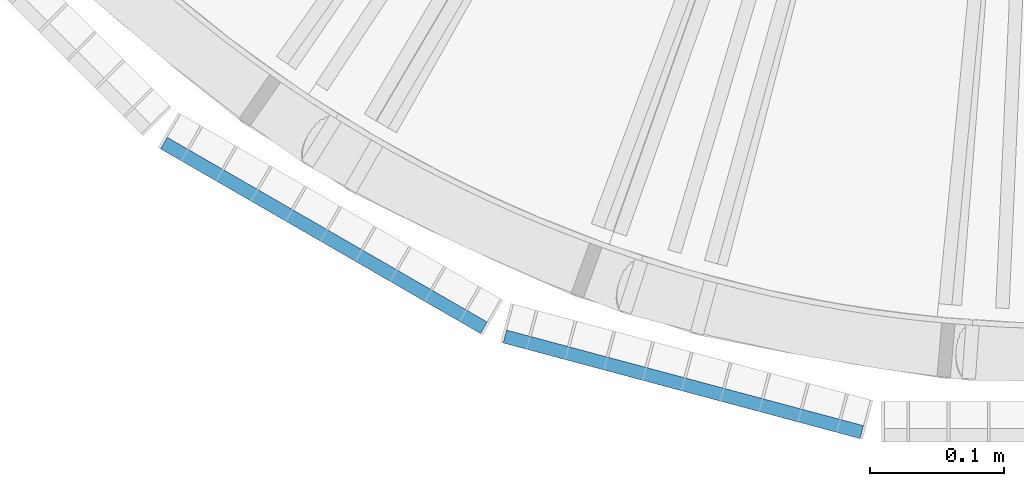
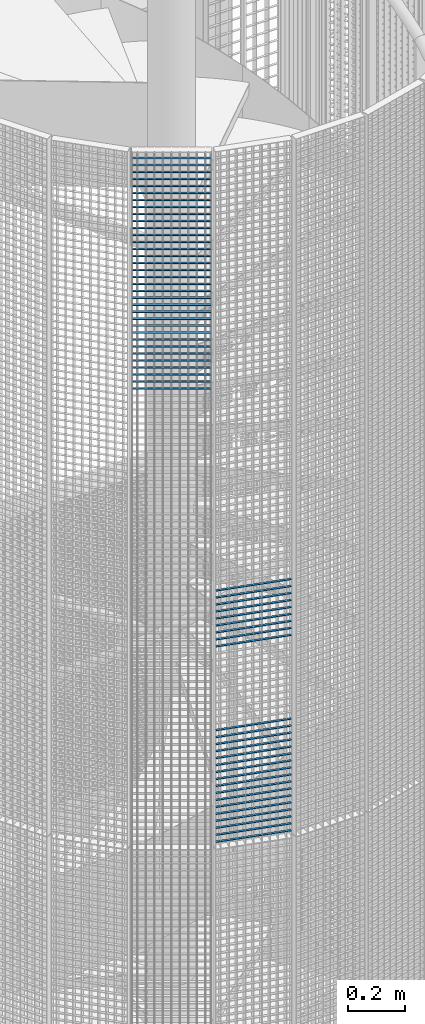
# One storey, part 138 of 1148: 60 beams, 2 elements without a shape of their own.
"""IFC2X3 building model written with IfcOpenShell, lengths in millimetres."""

from ifc_helpers import new_model, si_unit, frame, origin_with_axes, origin_2d_with_axis, place, context, subcontext, project, spatial, rectangle, extrude, material, type_object, element, aggregate, save


model = new_model("IFC2X3")

# Units and contexts
model_context = context("Model", 3, precision=1e-05, world=origin_with_axes())
body_context = subcontext(model_context, "Body", "Model", "MODEL_VIEW")
ifc_project = project(units=[si_unit("LENGTHUNIT", "METRE", prefix="MILLI"), si_unit("AREAUNIT", "SQUARE_METRE"), si_unit("VOLUMEUNIT", "CUBIC_METRE"), si_unit("MASSUNIT", "GRAM", prefix="KILO"), si_unit("TIMEUNIT", "SECOND"), si_unit("PLANEANGLEUNIT", "RADIAN"), si_unit("SOLIDANGLEUNIT", "STERADIAN"), si_unit("THERMODYNAMICTEMPERATUREUNIT", "DEGREE_CELSIUS"), si_unit("LUMINOUSINTENSITYUNIT", "LUMEN")], contexts=[model_context])

# Site, building, storey
site_placement = place(None, origin_with_axes())
site = spatial("IfcSite", under=ifc_project, at=site_placement, Name="Undefined", CompositionType="ELEMENT")
building_placement = place(site_placement, origin_with_axes())
building = spatial("IfcBuilding", under=site, at=building_placement, Name="Undefined", CompositionType="ELEMENT")
storey_placement = place(building_placement, origin_with_axes())
storey = spatial("IfcBuildingStorey", under=building, at=storey_placement, Name="Undefined", CompositionType="ELEMENT", Elevation=0.0)

# Assembly, beams
assembly_1_placement = place(storey_placement, origin_with_axes())
assembly_1 = element("IfcElementAssembly", 1, at=assembly_1_placement, inside=storey, Name="BORDURE", AssemblyPlace="NOTDEFINED", PredefinedType="NOTDEFINED")
ifc_material = material(Name="STEEL/S235JR")
beam_type = type_object("IfcBeamType", Name="PL2*10", PredefinedType="NOTDEFINED")
beam_1_placement = place(assembly_1_placement, frame((-421.483733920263, -1039.82309522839, 15510.0), z_axis=(-0.258819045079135, -0.965925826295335, 0.0), x_axis=(0.965925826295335, -0.258819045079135, 0.0)))
beam_1 = element("IfcBeam", 2, at=beam_1_placement, type_object=beam_type, material=ifc_material, Name="ENTRETOISE", context=body_context, shape_type="SweptSolid", body=[
    extrude(rectangle(XDim=2.0, YDim=10.0, at=origin_2d_with_axis()), frame((275.999999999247, 9.09494701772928e-13, 1.53210777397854e-14), z_axis=(-1.0, 0.0, 0.0), x_axis=(0.0, -1.0, 0.0)), (0.0, 0.0, 1.0), 276.0),
])
beam_2_placement = place(assembly_1_placement, frame((-421.483733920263, -1039.82309522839, 15480.0), z_axis=(-0.258819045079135, -0.965925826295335, 0.0), x_axis=(0.965925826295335, -0.258819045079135, 0.0)))
beam_2 = element("IfcBeam", 3, at=beam_2_placement, type_object=beam_type, material=ifc_material, Name="ENTRETOISE", context=body_context, shape_type="SweptSolid", body=[
    extrude(rectangle(XDim=2.0, YDim=10.0, at=origin_2d_with_axis()), frame((275.999999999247, 9.09494701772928e-13, 1.53210777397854e-14), z_axis=(-1.0, 0.0, 0.0), x_axis=(0.0, -1.0, 0.0)), (0.0, 0.0, 1.0), 276.0),
])
beam_3_placement = place(assembly_1_placement, frame((-421.483733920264, -1039.82309522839, 15870.0), z_axis=(-0.258819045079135, -0.965925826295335, 0.0), x_axis=(0.965925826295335, -0.258819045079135, 0.0)))
beam_3 = element("IfcBeam", 4, at=beam_3_placement, type_object=beam_type, material=ifc_material, Name="ENTRETOISE", context=body_context, shape_type="SweptSolid", body=[
    extrude(rectangle(XDim=2.0, YDim=10.0, at=origin_2d_with_axis()), frame((275.999999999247, 9.09494701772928e-13, 1.53210777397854e-14), z_axis=(-1.0, 0.0, 0.0), x_axis=(0.0, -1.0, 0.0)), (0.0, 0.0, 1.0), 276.0),
])
beam_4_placement = place(assembly_1_placement, frame((-421.483733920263, -1039.82309522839, 15450.0), z_axis=(-0.258819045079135, -0.965925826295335, 0.0), x_axis=(0.965925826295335, -0.258819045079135, 0.0)))
beam_4 = element("IfcBeam", 5, at=beam_4_placement, type_object=beam_type, material=ifc_material, Name="ENTRETOISE", context=body_context, shape_type="SweptSolid", body=[
    extrude(rectangle(XDim=2.0, YDim=10.0, at=origin_2d_with_axis()), frame((275.999999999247, 9.09494701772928e-13, 1.53210777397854e-14), z_axis=(-1.0, 0.0, 0.0), x_axis=(0.0, -1.0, 0.0)), (0.0, 0.0, 1.0), 276.0),
])
beam_5_placement = place(assembly_1_placement, frame((-421.483733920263, -1039.82309522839, 15420.0), z_axis=(-0.258819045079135, -0.965925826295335, 0.0), x_axis=(0.965925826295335, -0.258819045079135, 0.0)))
beam_5 = element("IfcBeam", 6, at=beam_5_placement, type_object=beam_type, material=ifc_material, Name="ENTRETOISE", context=body_context, shape_type="SweptSolid", body=[
    extrude(rectangle(XDim=2.0, YDim=10.0, at=origin_2d_with_axis()), frame((275.999999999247, 9.09494701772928e-13, 1.53210777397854e-14), z_axis=(-1.0, 0.0, 0.0), x_axis=(0.0, -1.0, 0.0)), (0.0, 0.0, 1.0), 276.0),
])
beam_6_placement = place(assembly_1_placement, frame((-421.483733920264, -1039.82309522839, 15900.0), z_axis=(-0.258819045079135, -0.965925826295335, 0.0), x_axis=(0.965925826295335, -0.258819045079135, 0.0)))
beam_6 = element("IfcBeam", 7, at=beam_6_placement, type_object=beam_type, material=ifc_material, Name="ENTRETOISE", context=body_context, shape_type="SweptSolid", body=[
    extrude(rectangle(XDim=2.0, YDim=10.0, at=origin_2d_with_axis()), frame((275.999999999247, 9.09494701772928e-13, 1.53210777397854e-14), z_axis=(-1.0, 0.0, 0.0), x_axis=(0.0, -1.0, 0.0)), (0.0, 0.0, 1.0), 276.0),
])
beam_7_placement = place(assembly_1_placement, frame((-421.483733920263, -1039.82309522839, 15390.0), z_axis=(-0.258819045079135, -0.965925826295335, 0.0), x_axis=(0.965925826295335, -0.258819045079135, 0.0)))
beam_7 = element("IfcBeam", 8, at=beam_7_placement, type_object=beam_type, material=ifc_material, Name="ENTRETOISE", context=body_context, shape_type="SweptSolid", body=[
    extrude(rectangle(XDim=2.0, YDim=10.0, at=origin_2d_with_axis()), frame((275.999999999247, 9.09494701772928e-13, 1.53210777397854e-14), z_axis=(-1.0, 0.0, 0.0), x_axis=(0.0, -1.0, 0.0)), (0.0, 0.0, 1.0), 276.0),
])
beam_8_placement = place(assembly_1_placement, frame((-421.483733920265, -1039.82309522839, 15930.0), z_axis=(-0.258819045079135, -0.965925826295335, 0.0), x_axis=(0.965925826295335, -0.258819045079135, 0.0)))
beam_8 = element("IfcBeam", 9, at=beam_8_placement, type_object=beam_type, material=ifc_material, Name="ENTRETOISE", context=body_context, shape_type="SweptSolid", body=[
    extrude(rectangle(XDim=2.0, YDim=10.0, at=origin_2d_with_axis()), frame((275.999999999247, 9.09494701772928e-13, 1.53210777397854e-14), z_axis=(-1.0, 0.0, 0.0), x_axis=(0.0, -1.0, 0.0)), (0.0, 0.0, 1.0), 276.0),
])
beam_9_placement = place(assembly_1_placement, frame((-421.483733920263, -1039.82309522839, 15360.0), z_axis=(-0.258819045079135, -0.965925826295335, 0.0), x_axis=(0.965925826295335, -0.258819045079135, 0.0)))
beam_9 = element("IfcBeam", 10, at=beam_9_placement, type_object=beam_type, material=ifc_material, Name="ENTRETOISE", context=body_context, shape_type="SweptSolid", body=[
    extrude(rectangle(XDim=2.0, YDim=10.0, at=origin_2d_with_axis()), frame((275.999999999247, 9.09494701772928e-13, 1.53210777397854e-14), z_axis=(-1.0, 0.0, 0.0), x_axis=(0.0, -1.0, 0.0)), (0.0, 0.0, 1.0), 276.0),
])
beam_10_placement = place(assembly_1_placement, frame((-421.483733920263, -1039.82309522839, 15330.0), z_axis=(-0.258819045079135, -0.965925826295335, 0.0), x_axis=(0.965925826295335, -0.258819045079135, 0.0)))
beam_10 = element("IfcBeam", 11, at=beam_10_placement, type_object=beam_type, material=ifc_material, Name="ENTRETOISE", context=body_context, shape_type="SweptSolid", body=[
    extrude(rectangle(XDim=2.0, YDim=10.0, at=origin_2d_with_axis()), frame((275.999999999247, 9.09494701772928e-13, 1.53210777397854e-14), z_axis=(-1.0, 0.0, 0.0), x_axis=(0.0, -1.0, 0.0)), (0.0, 0.0, 1.0), 276.0),
])
beam_11_placement = place(assembly_1_placement, frame((-421.483733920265, -1039.82309522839, 15960.0), z_axis=(-0.258819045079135, -0.965925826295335, 0.0), x_axis=(0.965925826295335, -0.258819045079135, 0.0)))
beam_11 = element("IfcBeam", 12, at=beam_11_placement, type_object=beam_type, material=ifc_material, Name="ENTRETOISE", context=body_context, shape_type="SweptSolid", body=[
    extrude(rectangle(XDim=2.0, YDim=10.0, at=origin_2d_with_axis()), frame((275.999999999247, 9.09494701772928e-13, 1.53210777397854e-14), z_axis=(-1.0, 0.0, 0.0), x_axis=(0.0, -1.0, 0.0)), (0.0, 0.0, 1.0), 276.0),
])
beam_12_placement = place(assembly_1_placement, frame((-421.483733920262, -1039.82309522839, 15300.0), z_axis=(-0.258819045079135, -0.965925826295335, 0.0), x_axis=(0.965925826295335, -0.258819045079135, 0.0)))
beam_12 = element("IfcBeam", 13, at=beam_12_placement, type_object=beam_type, material=ifc_material, Name="ENTRETOISE", context=body_context, shape_type="SweptSolid", body=[
    extrude(rectangle(XDim=2.0, YDim=10.0, at=origin_2d_with_axis()), frame((275.999999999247, 9.09494701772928e-13, 1.53210777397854e-14), z_axis=(-1.0, 0.0, 0.0), x_axis=(0.0, -1.0, 0.0)), (0.0, 0.0, 1.0), 276.0),
])
beam_13_placement = place(assembly_1_placement, frame((-421.483733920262, -1039.82309522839, 15270.0), z_axis=(-0.258819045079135, -0.965925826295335, 0.0), x_axis=(0.965925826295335, -0.258819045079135, 0.0)))
beam_13 = element("IfcBeam", 14, at=beam_13_placement, type_object=beam_type, material=ifc_material, Name="ENTRETOISE", context=body_context, shape_type="SweptSolid", body=[
    extrude(rectangle(XDim=2.0, YDim=10.0, at=origin_2d_with_axis()), frame((275.999999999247, 9.09494701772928e-13, 1.53210777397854e-14), z_axis=(-1.0, 0.0, 0.0), x_axis=(0.0, -1.0, 0.0)), (0.0, 0.0, 1.0), 276.0),
])
beam_14_placement = place(assembly_1_placement, frame((-421.483733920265, -1039.82309522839, 15990.0), z_axis=(-0.258819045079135, -0.965925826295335, 0.0), x_axis=(0.965925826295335, -0.258819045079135, 0.0)))
beam_14 = element("IfcBeam", 15, at=beam_14_placement, type_object=beam_type, material=ifc_material, Name="ENTRETOISE", context=body_context, shape_type="SweptSolid", body=[
    extrude(rectangle(XDim=2.0, YDim=10.0, at=origin_2d_with_axis()), frame((275.999999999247, 9.09494701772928e-13, 1.53210777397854e-14), z_axis=(-1.0, 0.0, 0.0), x_axis=(0.0, -1.0, 0.0)), (0.0, 0.0, 1.0), 276.0),
])
beam_15_placement = place(assembly_1_placement, frame((-421.483733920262, -1039.82309522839, 15240.0), z_axis=(-0.258819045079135, -0.965925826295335, 0.0), x_axis=(0.965925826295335, -0.258819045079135, 0.0)))
beam_15 = element("IfcBeam", 16, at=beam_15_placement, type_object=beam_type, material=ifc_material, Name="ENTRETOISE", context=body_context, shape_type="SweptSolid", body=[
    extrude(rectangle(XDim=2.0, YDim=10.0, at=origin_2d_with_axis()), frame((275.999999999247, 9.09494701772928e-13, 1.53210777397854e-14), z_axis=(-1.0, 0.0, 0.0), x_axis=(0.0, -1.0, 0.0)), (0.0, 0.0, 1.0), 276.0),
])
beam_16_placement = place(assembly_1_placement, frame((-421.483733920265, -1039.82309522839, 16020.0), z_axis=(-0.258819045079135, -0.965925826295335, 0.0), x_axis=(0.965925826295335, -0.258819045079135, 0.0)))
beam_16 = element("IfcBeam", 17, at=beam_16_placement, type_object=beam_type, material=ifc_material, Name="ENTRETOISE", context=body_context, shape_type="SweptSolid", body=[
    extrude(rectangle(XDim=2.0, YDim=10.0, at=origin_2d_with_axis()), frame((275.999999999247, 9.09494701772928e-13, 1.53210777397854e-14), z_axis=(-1.0, 0.0, 0.0), x_axis=(0.0, -1.0, 0.0)), (0.0, 0.0, 1.0), 276.0),
])
beam_17_placement = place(assembly_1_placement, frame((-421.483733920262, -1039.82309522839, 15210.0), z_axis=(-0.258819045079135, -0.965925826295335, 0.0), x_axis=(0.965925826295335, -0.258819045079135, 0.0)))
beam_17 = element("IfcBeam", 18, at=beam_17_placement, type_object=beam_type, material=ifc_material, Name="ENTRETOISE", context=body_context, shape_type="SweptSolid", body=[
    extrude(rectangle(XDim=2.0, YDim=10.0, at=origin_2d_with_axis()), frame((275.999999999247, 9.09494701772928e-13, 1.53210777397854e-14), z_axis=(-1.0, 0.0, 0.0), x_axis=(0.0, -1.0, 0.0)), (0.0, 0.0, 1.0), 276.0),
])
beam_18_placement = place(assembly_1_placement, frame((-421.483733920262, -1039.82309522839, 15180.0), z_axis=(-0.258819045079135, -0.965925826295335, 0.0), x_axis=(0.965925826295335, -0.258819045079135, 0.0)))
beam_18 = element("IfcBeam", 19, at=beam_18_placement, type_object=beam_type, material=ifc_material, Name="ENTRETOISE", context=body_context, shape_type="SweptSolid", body=[
    extrude(rectangle(XDim=2.0, YDim=10.0, at=origin_2d_with_axis()), frame((275.999999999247, 9.09494701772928e-13, 1.53210777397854e-14), z_axis=(-1.0, 0.0, 0.0), x_axis=(0.0, -1.0, 0.0)), (0.0, 0.0, 1.0), 276.0),
])
beam_19_placement = place(assembly_1_placement, frame((-421.483733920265, -1039.82309522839, 16050.0), z_axis=(-0.258819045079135, -0.965925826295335, 0.0), x_axis=(0.965925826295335, -0.258819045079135, 0.0)))
beam_19 = element("IfcBeam", 20, at=beam_19_placement, type_object=beam_type, material=ifc_material, Name="ENTRETOISE", context=body_context, shape_type="SweptSolid", body=[
    extrude(rectangle(XDim=2.0, YDim=10.0, at=origin_2d_with_axis()), frame((275.999999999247, 9.09494701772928e-13, 1.53210777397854e-14), z_axis=(-1.0, 0.0, 0.0), x_axis=(0.0, -1.0, 0.0)), (0.0, 0.0, 1.0), 276.0),
])
beam_20_placement = place(assembly_1_placement, frame((-421.483733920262, -1039.82309522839, 15150.0), z_axis=(-0.258819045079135, -0.965925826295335, 0.0), x_axis=(0.965925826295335, -0.258819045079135, 0.0)))
beam_20 = element("IfcBeam", 21, at=beam_20_placement, type_object=beam_type, material=ifc_material, Name="ENTRETOISE", context=body_context, shape_type="SweptSolid", body=[
    extrude(rectangle(XDim=2.0, YDim=10.0, at=origin_2d_with_axis()), frame((275.999999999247, 9.09494701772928e-13, 1.53210777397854e-14), z_axis=(-1.0, 0.0, 0.0), x_axis=(0.0, -1.0, 0.0)), (0.0, 0.0, 1.0), 276.0),
])
beam_21_placement = place(assembly_1_placement, frame((-421.483733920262, -1039.82309522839, 15120.0), z_axis=(-0.258819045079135, -0.965925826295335, 0.0), x_axis=(0.965925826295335, -0.258819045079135, 0.0)))
beam_21 = element("IfcBeam", 22, at=beam_21_placement, type_object=beam_type, material=ifc_material, Name="ENTRETOISE", context=body_context, shape_type="SweptSolid", body=[
    extrude(rectangle(XDim=2.0, YDim=10.0, at=origin_2d_with_axis()), frame((275.999999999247, 9.09494701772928e-13, 1.53210777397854e-14), z_axis=(-1.0, 0.0, 0.0), x_axis=(0.0, -1.0, 0.0)), (0.0, 0.0, 1.0), 276.0),
])
beam_22_placement = place(assembly_1_placement, frame((-421.483733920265, -1039.82309522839, 16080.0), z_axis=(-0.258819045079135, -0.965925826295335, 0.0), x_axis=(0.965925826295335, -0.258819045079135, 0.0)))
beam_22 = element("IfcBeam", 23, at=beam_22_placement, type_object=beam_type, material=ifc_material, Name="ENTRETOISE", context=body_context, shape_type="SweptSolid", body=[
    extrude(rectangle(XDim=2.0, YDim=10.0, at=origin_2d_with_axis()), frame((275.999999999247, 9.09494701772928e-13, 1.53210777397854e-14), z_axis=(-1.0, 0.0, 0.0), x_axis=(0.0, -1.0, 0.0)), (0.0, 0.0, 1.0), 276.0),
])
beam_23_placement = place(assembly_1_placement, frame((-421.483733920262, -1039.82309522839, 15090.0), z_axis=(-0.258819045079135, -0.965925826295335, 0.0), x_axis=(0.965925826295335, -0.258819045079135, 0.0)))
beam_23 = element("IfcBeam", 24, at=beam_23_placement, type_object=beam_type, material=ifc_material, Name="ENTRETOISE", context=body_context, shape_type="SweptSolid", body=[
    extrude(rectangle(XDim=2.0, YDim=10.0, at=origin_2d_with_axis()), frame((275.999999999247, 9.09494701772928e-13, 1.53210777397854e-14), z_axis=(-1.0, 0.0, 0.0), x_axis=(0.0, -1.0, 0.0)), (0.0, 0.0, 1.0), 276.0),
])
beam_24_placement = place(assembly_1_placement, frame((-421.483733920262, -1039.82309522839, 15060.0), z_axis=(-0.258819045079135, -0.965925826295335, 0.0), x_axis=(0.965925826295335, -0.258819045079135, 0.0)))
beam_24 = element("IfcBeam", 25, at=beam_24_placement, type_object=beam_type, material=ifc_material, Name="ENTRETOISE", context=body_context, shape_type="SweptSolid", body=[
    extrude(rectangle(XDim=2.0, YDim=10.0, at=origin_2d_with_axis()), frame((275.999999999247, 9.09494701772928e-13, 1.53210777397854e-14), z_axis=(-1.0, 0.0, 0.0), x_axis=(0.0, -1.0, 0.0)), (0.0, 0.0, 1.0), 276.0),
])
beam_25_placement = place(assembly_1_placement, frame((-421.483733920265, -1039.82309522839, 16110.0), z_axis=(-0.258819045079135, -0.965925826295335, 0.0), x_axis=(0.965925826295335, -0.258819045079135, 0.0)))
beam_25 = element("IfcBeam", 26, at=beam_25_placement, type_object=beam_type, material=ifc_material, Name="ENTRETOISE", context=body_context, shape_type="SweptSolid", body=[
    extrude(rectangle(XDim=2.0, YDim=10.0, at=origin_2d_with_axis()), frame((275.999999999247, 9.09494701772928e-13, 1.53210777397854e-14), z_axis=(-1.0, 0.0, 0.0), x_axis=(0.0, -1.0, 0.0)), (0.0, 0.0, 1.0), 276.0),
])
beam_26_placement = place(assembly_1_placement, frame((-421.48373392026, -1039.82309522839, 15030.0), z_axis=(-0.258819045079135, -0.965925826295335, 0.0), x_axis=(0.965925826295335, -0.258819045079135, 0.0)))
beam_26 = element("IfcBeam", 27, at=beam_26_placement, type_object=beam_type, material=ifc_material, Name="ENTRETOISE", context=body_context, shape_type="SweptSolid", body=[
    extrude(rectangle(XDim=2.0, YDim=10.0, at=origin_2d_with_axis()), frame((275.999999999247, 9.09494701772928e-13, 1.53210777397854e-14), z_axis=(-1.0, 0.0, 0.0), x_axis=(0.0, -1.0, 0.0)), (0.0, 0.0, 1.0), 276.0),
])
aggregate(assembly_1, [beam_1, beam_2, beam_3, beam_4, beam_5, beam_6, beam_7, beam_8, beam_9, beam_10, beam_11, beam_12, beam_13, beam_14, beam_15, beam_16, beam_17, beam_18, beam_19, beam_20, beam_21, beam_22, beam_23, beam_24, beam_25, beam_26])

assembly_2_placement = place(storey_placement, origin_with_axes())
assembly_2 = element("IfcElementAssembly", 28, at=assembly_2_placement, inside=storey, Name="BORDURE", AssemblyPlace="NOTDEFINED", PredefinedType="NOTDEFINED")
beam_27_placement = place(assembly_2_placement, frame((-676.248044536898, -895.303964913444, 17970.0), z_axis=(-0.49999999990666, -0.866025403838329, 0.0), x_axis=(0.866025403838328, -0.49999999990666, 0.0)))
beam_27 = element("IfcBeam", 29, at=beam_27_placement, type_object=beam_type, material=ifc_material, Name="ENTRETOISE", context=body_context, shape_type="SweptSolid", body=[
    extrude(rectangle(XDim=2.0, YDim=10.0, at=origin_2d_with_axis()), frame((275.999999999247, 9.09494701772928e-13, 1.53210777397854e-14), z_axis=(-1.0, 0.0, 0.0), x_axis=(0.0, -1.0, 0.0)), (0.0, 0.0, 1.0), 276.0),
])
beam_28_placement = place(assembly_2_placement, frame((-676.248044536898, -895.303964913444, 17940.0), z_axis=(-0.49999999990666, -0.866025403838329, 0.0), x_axis=(0.866025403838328, -0.49999999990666, 0.0)))
beam_28 = element("IfcBeam", 30, at=beam_28_placement, type_object=beam_type, material=ifc_material, Name="ENTRETOISE", context=body_context, shape_type="SweptSolid", body=[
    extrude(rectangle(XDim=2.0, YDim=10.0, at=origin_2d_with_axis()), frame((275.999999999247, 9.09494701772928e-13, 1.53210777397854e-14), z_axis=(-1.0, 0.0, 0.0), x_axis=(0.0, -1.0, 0.0)), (0.0, 0.0, 1.0), 276.0),
])
beam_29_placement = place(assembly_2_placement, frame((-676.248044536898, -895.303964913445, 17910.0), z_axis=(-0.49999999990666, -0.866025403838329, 0.0), x_axis=(0.866025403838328, -0.49999999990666, 0.0)))
beam_29 = element("IfcBeam", 31, at=beam_29_placement, type_object=beam_type, material=ifc_material, Name="ENTRETOISE", context=body_context, shape_type="SweptSolid", body=[
    extrude(rectangle(XDim=2.0, YDim=10.0, at=origin_2d_with_axis()), frame((275.999999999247, 9.09494701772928e-13, 1.53210777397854e-14), z_axis=(-1.0, 0.0, 0.0), x_axis=(0.0, -1.0, 0.0)), (0.0, 0.0, 1.0), 276.0),
])
beam_30_placement = place(assembly_2_placement, frame((-676.248044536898, -895.303964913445, 17880.0), z_axis=(-0.49999999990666, -0.866025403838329, 0.0), x_axis=(0.866025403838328, -0.49999999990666, 0.0)))
beam_30 = element("IfcBeam", 32, at=beam_30_placement, type_object=beam_type, material=ifc_material, Name="ENTRETOISE", context=body_context, shape_type="SweptSolid", body=[
    extrude(rectangle(XDim=2.0, YDim=10.0, at=origin_2d_with_axis()), frame((275.999999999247, 9.09494701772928e-13, 1.53210777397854e-14), z_axis=(-1.0, 0.0, 0.0), x_axis=(0.0, -1.0, 0.0)), (0.0, 0.0, 1.0), 276.0),
])
beam_31_placement = place(assembly_2_placement, frame((-676.248044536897, -895.303964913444, 17850.0), z_axis=(-0.49999999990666, -0.866025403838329, 0.0), x_axis=(0.866025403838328, -0.49999999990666, 0.0)))
beam_31 = element("IfcBeam", 33, at=beam_31_placement, type_object=beam_type, material=ifc_material, Name="ENTRETOISE", context=body_context, shape_type="SweptSolid", body=[
    extrude(rectangle(XDim=2.0, YDim=10.0, at=origin_2d_with_axis()), frame((275.999999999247, 9.09494701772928e-13, 1.53210777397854e-14), z_axis=(-1.0, 0.0, 0.0), x_axis=(0.0, -1.0, 0.0)), (0.0, 0.0, 1.0), 276.0),
])
beam_32_placement = place(assembly_2_placement, frame((-676.248044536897, -895.303964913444, 17820.0), z_axis=(-0.49999999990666, -0.866025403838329, 0.0), x_axis=(0.866025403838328, -0.49999999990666, 0.0)))
beam_32 = element("IfcBeam", 34, at=beam_32_placement, type_object=beam_type, material=ifc_material, Name="ENTRETOISE", context=body_context, shape_type="SweptSolid", body=[
    extrude(rectangle(XDim=2.0, YDim=10.0, at=origin_2d_with_axis()), frame((275.999999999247, 9.09494701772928e-13, 1.53210777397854e-14), z_axis=(-1.0, 0.0, 0.0), x_axis=(0.0, -1.0, 0.0)), (0.0, 0.0, 1.0), 276.0),
])
beam_33_placement = place(assembly_2_placement, frame((-676.248044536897, -895.303964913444, 17790.0), z_axis=(-0.49999999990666, -0.866025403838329, 0.0), x_axis=(0.866025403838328, -0.49999999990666, 0.0)))
beam_33 = element("IfcBeam", 35, at=beam_33_placement, type_object=beam_type, material=ifc_material, Name="ENTRETOISE", context=body_context, shape_type="SweptSolid", body=[
    extrude(rectangle(XDim=2.0, YDim=10.0, at=origin_2d_with_axis()), frame((275.999999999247, 9.09494701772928e-13, 1.53210777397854e-14), z_axis=(-1.0, 0.0, 0.0), x_axis=(0.0, -1.0, 0.0)), (0.0, 0.0, 1.0), 276.0),
])
beam_34_placement = place(assembly_2_placement, frame((-676.248044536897, -895.303964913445, 17760.0), z_axis=(-0.49999999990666, -0.866025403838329, 0.0), x_axis=(0.866025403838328, -0.49999999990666, 0.0)))
beam_34 = element("IfcBeam", 36, at=beam_34_placement, type_object=beam_type, material=ifc_material, Name="ENTRETOISE", context=body_context, shape_type="SweptSolid", body=[
    extrude(rectangle(XDim=2.0, YDim=10.0, at=origin_2d_with_axis()), frame((275.999999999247, 9.09494701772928e-13, 1.53210777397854e-14), z_axis=(-1.0, 0.0, 0.0), x_axis=(0.0, -1.0, 0.0)), (0.0, 0.0, 1.0), 276.0),
])
beam_35_placement = place(assembly_2_placement, frame((-676.248044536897, -895.303964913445, 17730.0), z_axis=(-0.49999999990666, -0.866025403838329, 0.0), x_axis=(0.866025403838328, -0.49999999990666, 0.0)))
beam_35 = element("IfcBeam", 37, at=beam_35_placement, type_object=beam_type, material=ifc_material, Name="ENTRETOISE", context=body_context, shape_type="SweptSolid", body=[
    extrude(rectangle(XDim=2.0, YDim=10.0, at=origin_2d_with_axis()), frame((275.999999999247, 9.09494701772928e-13, 1.53210777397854e-14), z_axis=(-1.0, 0.0, 0.0), x_axis=(0.0, -1.0, 0.0)), (0.0, 0.0, 1.0), 276.0),
])
beam_36_placement = place(assembly_2_placement, frame((-676.248044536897, -895.303964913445, 17700.0), z_axis=(-0.49999999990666, -0.866025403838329, 0.0), x_axis=(0.866025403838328, -0.49999999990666, 0.0)))
beam_36 = element("IfcBeam", 38, at=beam_36_placement, type_object=beam_type, material=ifc_material, Name="ENTRETOISE", context=body_context, shape_type="SweptSolid", body=[
    extrude(rectangle(XDim=2.0, YDim=10.0, at=origin_2d_with_axis()), frame((275.999999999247, 9.09494701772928e-13, 1.53210777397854e-14), z_axis=(-1.0, 0.0, 0.0), x_axis=(0.0, -1.0, 0.0)), (0.0, 0.0, 1.0), 276.0),
])
beam_37_placement = place(assembly_2_placement, frame((-676.248044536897, -895.303964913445, 17670.0), z_axis=(-0.49999999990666, -0.866025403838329, 0.0), x_axis=(0.866025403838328, -0.49999999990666, 0.0)))
beam_37 = element("IfcBeam", 39, at=beam_37_placement, type_object=beam_type, material=ifc_material, Name="ENTRETOISE", context=body_context, shape_type="SweptSolid", body=[
    extrude(rectangle(XDim=2.0, YDim=10.0, at=origin_2d_with_axis()), frame((275.999999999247, 9.09494701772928e-13, 1.53210777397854e-14), z_axis=(-1.0, 0.0, 0.0), x_axis=(0.0, -1.0, 0.0)), (0.0, 0.0, 1.0), 276.0),
])
beam_38_placement = place(assembly_2_placement, frame((-676.248044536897, -895.303964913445, 17640.0), z_axis=(-0.49999999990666, -0.866025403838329, 0.0), x_axis=(0.866025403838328, -0.49999999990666, 0.0)))
beam_38 = element("IfcBeam", 40, at=beam_38_placement, type_object=beam_type, material=ifc_material, Name="ENTRETOISE", context=body_context, shape_type="SweptSolid", body=[
    extrude(rectangle(XDim=2.0, YDim=10.0, at=origin_2d_with_axis()), frame((275.999999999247, 9.09494701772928e-13, 1.53210777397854e-14), z_axis=(-1.0, 0.0, 0.0), x_axis=(0.0, -1.0, 0.0)), (0.0, 0.0, 1.0), 276.0),
])
beam_39_placement = place(assembly_2_placement, frame((-676.248044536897, -895.303964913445, 17610.0), z_axis=(-0.49999999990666, -0.866025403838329, 0.0), x_axis=(0.866025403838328, -0.49999999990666, 0.0)))
beam_39 = element("IfcBeam", 41, at=beam_39_placement, type_object=beam_type, material=ifc_material, Name="ENTRETOISE", context=body_context, shape_type="SweptSolid", body=[
    extrude(rectangle(XDim=2.0, YDim=10.0, at=origin_2d_with_axis()), frame((275.999999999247, 9.09494701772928e-13, 1.53210777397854e-14), z_axis=(-1.0, 0.0, 0.0), x_axis=(0.0, -1.0, 0.0)), (0.0, 0.0, 1.0), 276.0),
])
beam_40_placement = place(assembly_2_placement, frame((-676.248044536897, -895.303964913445, 17580.0), z_axis=(-0.49999999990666, -0.866025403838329, 0.0), x_axis=(0.866025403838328, -0.49999999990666, 0.0)))
beam_40 = element("IfcBeam", 42, at=beam_40_placement, type_object=beam_type, material=ifc_material, Name="ENTRETOISE", context=body_context, shape_type="SweptSolid", body=[
    extrude(rectangle(XDim=2.0, YDim=10.0, at=origin_2d_with_axis()), frame((275.999999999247, 9.09494701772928e-13, 1.53210777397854e-14), z_axis=(-1.0, 0.0, 0.0), x_axis=(0.0, -1.0, 0.0)), (0.0, 0.0, 1.0), 276.0),
])
beam_41_placement = place(assembly_2_placement, frame((-676.248044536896, -895.303964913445, 17550.0), z_axis=(-0.49999999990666, -0.866025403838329, 0.0), x_axis=(0.866025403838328, -0.49999999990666, 0.0)))
beam_41 = element("IfcBeam", 43, at=beam_41_placement, type_object=beam_type, material=ifc_material, Name="ENTRETOISE", context=body_context, shape_type="SweptSolid", body=[
    extrude(rectangle(XDim=2.0, YDim=10.0, at=origin_2d_with_axis()), frame((275.999999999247, 9.09494701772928e-13, 1.53210777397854e-14), z_axis=(-1.0, 0.0, 0.0), x_axis=(0.0, -1.0, 0.0)), (0.0, 0.0, 1.0), 276.0),
])
beam_42_placement = place(assembly_2_placement, frame((-676.248044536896, -895.303964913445, 17520.0), z_axis=(-0.49999999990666, -0.866025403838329, 0.0), x_axis=(0.866025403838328, -0.49999999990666, 0.0)))
beam_42 = element("IfcBeam", 44, at=beam_42_placement, type_object=beam_type, material=ifc_material, Name="ENTRETOISE", context=body_context, shape_type="SweptSolid", body=[
    extrude(rectangle(XDim=2.0, YDim=10.0, at=origin_2d_with_axis()), frame((275.999999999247, 9.09494701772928e-13, 1.53210777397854e-14), z_axis=(-1.0, 0.0, 0.0), x_axis=(0.0, -1.0, 0.0)), (0.0, 0.0, 1.0), 276.0),
])
beam_43_placement = place(assembly_2_placement, frame((-676.248044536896, -895.303964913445, 17490.0), z_axis=(-0.49999999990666, -0.866025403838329, 0.0), x_axis=(0.866025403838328, -0.49999999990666, 0.0)))
beam_43 = element("IfcBeam", 45, at=beam_43_placement, type_object=beam_type, material=ifc_material, Name="ENTRETOISE", context=body_context, shape_type="SweptSolid", body=[
    extrude(rectangle(XDim=2.0, YDim=10.0, at=origin_2d_with_axis()), frame((275.999999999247, 9.09494701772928e-13, 1.53210777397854e-14), z_axis=(-1.0, 0.0, 0.0), x_axis=(0.0, -1.0, 0.0)), (0.0, 0.0, 1.0), 276.0),
])
beam_44_placement = place(assembly_2_placement, frame((-676.248044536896, -895.303964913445, 17460.0), z_axis=(-0.49999999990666, -0.866025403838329, 0.0), x_axis=(0.866025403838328, -0.49999999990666, 0.0)))
beam_44 = element("IfcBeam", 46, at=beam_44_placement, type_object=beam_type, material=ifc_material, Name="ENTRETOISE", context=body_context, shape_type="SweptSolid", body=[
    extrude(rectangle(XDim=2.0, YDim=10.0, at=origin_2d_with_axis()), frame((275.999999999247, 9.09494701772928e-13, 1.53210777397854e-14), z_axis=(-1.0, 0.0, 0.0), x_axis=(0.0, -1.0, 0.0)), (0.0, 0.0, 1.0), 276.0),
])
beam_45_placement = place(assembly_2_placement, frame((-676.248044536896, -895.303964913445, 17430.0), z_axis=(-0.49999999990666, -0.866025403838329, 0.0), x_axis=(0.866025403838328, -0.49999999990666, 0.0)))
beam_45 = element("IfcBeam", 47, at=beam_45_placement, type_object=beam_type, material=ifc_material, Name="ENTRETOISE", context=body_context, shape_type="SweptSolid", body=[
    extrude(rectangle(XDim=2.0, YDim=10.0, at=origin_2d_with_axis()), frame((275.999999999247, 9.09494701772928e-13, 1.53210777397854e-14), z_axis=(-1.0, 0.0, 0.0), x_axis=(0.0, -1.0, 0.0)), (0.0, 0.0, 1.0), 276.0),
])
beam_46_placement = place(assembly_2_placement, frame((-676.248044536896, -895.303964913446, 17400.0), z_axis=(-0.49999999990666, -0.866025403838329, 0.0), x_axis=(0.866025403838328, -0.49999999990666, 0.0)))
beam_46 = element("IfcBeam", 48, at=beam_46_placement, type_object=beam_type, material=ifc_material, Name="ENTRETOISE", context=body_context, shape_type="SweptSolid", body=[
    extrude(rectangle(XDim=2.0, YDim=10.0, at=origin_2d_with_axis()), frame((275.999999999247, 9.09494701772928e-13, 1.53210777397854e-14), z_axis=(-1.0, 0.0, 0.0), x_axis=(0.0, -1.0, 0.0)), (0.0, 0.0, 1.0), 276.0),
])
beam_47_placement = place(assembly_2_placement, frame((-676.248044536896, -895.303964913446, 17370.0), z_axis=(-0.49999999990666, -0.866025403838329, 0.0), x_axis=(0.866025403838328, -0.49999999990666, 0.0)))
beam_47 = element("IfcBeam", 49, at=beam_47_placement, type_object=beam_type, material=ifc_material, Name="ENTRETOISE", context=body_context, shape_type="SweptSolid", body=[
    extrude(rectangle(XDim=2.0, YDim=10.0, at=origin_2d_with_axis()), frame((275.999999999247, 9.09494701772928e-13, 1.53210777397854e-14), z_axis=(-1.0, 0.0, 0.0), x_axis=(0.0, -1.0, 0.0)), (0.0, 0.0, 1.0), 276.0),
])
beam_48_placement = place(assembly_2_placement, frame((-676.248044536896, -895.303964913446, 17340.0), z_axis=(-0.49999999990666, -0.866025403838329, 0.0), x_axis=(0.866025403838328, -0.49999999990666, 0.0)))
beam_48 = element("IfcBeam", 50, at=beam_48_placement, type_object=beam_type, material=ifc_material, Name="ENTRETOISE", context=body_context, shape_type="SweptSolid", body=[
    extrude(rectangle(XDim=2.0, YDim=10.0, at=origin_2d_with_axis()), frame((275.999999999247, 9.09494701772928e-13, 1.53210777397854e-14), z_axis=(-1.0, 0.0, 0.0), x_axis=(0.0, -1.0, 0.0)), (0.0, 0.0, 1.0), 276.0),
])
beam_49_placement = place(assembly_2_placement, frame((-676.248044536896, -895.303964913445, 17310.0), z_axis=(-0.49999999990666, -0.866025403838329, 0.0), x_axis=(0.866025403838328, -0.49999999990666, 0.0)))
beam_49 = element("IfcBeam", 51, at=beam_49_placement, type_object=beam_type, material=ifc_material, Name="ENTRETOISE", context=body_context, shape_type="SweptSolid", body=[
    extrude(rectangle(XDim=2.0, YDim=10.0, at=origin_2d_with_axis()), frame((275.999999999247, 9.09494701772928e-13, 1.53210777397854e-14), z_axis=(-1.0, 0.0, 0.0), x_axis=(0.0, -1.0, 0.0)), (0.0, 0.0, 1.0), 276.0),
])
beam_50_placement = place(assembly_2_placement, frame((-676.248044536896, -895.303964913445, 17280.0), z_axis=(-0.49999999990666, -0.866025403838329, 0.0), x_axis=(0.866025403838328, -0.49999999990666, 0.0)))
beam_50 = element("IfcBeam", 52, at=beam_50_placement, type_object=beam_type, material=ifc_material, Name="ENTRETOISE", context=body_context, shape_type="SweptSolid", body=[
    extrude(rectangle(XDim=2.0, YDim=10.0, at=origin_2d_with_axis()), frame((275.999999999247, 9.09494701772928e-13, 1.53210777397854e-14), z_axis=(-1.0, 0.0, 0.0), x_axis=(0.0, -1.0, 0.0)), (0.0, 0.0, 1.0), 276.0),
])
beam_51_placement = place(assembly_2_placement, frame((-676.248044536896, -895.303964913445, 17250.0), z_axis=(-0.49999999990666, -0.866025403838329, 0.0), x_axis=(0.866025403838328, -0.49999999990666, 0.0)))
beam_51 = element("IfcBeam", 53, at=beam_51_placement, type_object=beam_type, material=ifc_material, Name="ENTRETOISE", context=body_context, shape_type="SweptSolid", body=[
    extrude(rectangle(XDim=2.0, YDim=10.0, at=origin_2d_with_axis()), frame((275.999999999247, 9.09494701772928e-13, 1.53210777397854e-14), z_axis=(-1.0, 0.0, 0.0), x_axis=(0.0, -1.0, 0.0)), (0.0, 0.0, 1.0), 276.0),
])
beam_52_placement = place(assembly_2_placement, frame((-676.248044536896, -895.303964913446, 17220.0), z_axis=(-0.49999999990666, -0.866025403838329, 0.0), x_axis=(0.866025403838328, -0.49999999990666, 0.0)))
beam_52 = element("IfcBeam", 54, at=beam_52_placement, type_object=beam_type, material=ifc_material, Name="ENTRETOISE", context=body_context, shape_type="SweptSolid", body=[
    extrude(rectangle(XDim=2.0, YDim=10.0, at=origin_2d_with_axis()), frame((275.999999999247, 9.09494701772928e-13, 1.53210777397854e-14), z_axis=(-1.0, 0.0, 0.0), x_axis=(0.0, -1.0, 0.0)), (0.0, 0.0, 1.0), 276.0),
])
beam_53_placement = place(assembly_2_placement, frame((-676.248044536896, -895.303964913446, 17190.0), z_axis=(-0.49999999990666, -0.866025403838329, 0.0), x_axis=(0.866025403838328, -0.49999999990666, 0.0)))
beam_53 = element("IfcBeam", 55, at=beam_53_placement, type_object=beam_type, material=ifc_material, Name="ENTRETOISE", context=body_context, shape_type="SweptSolid", body=[
    extrude(rectangle(XDim=2.0, YDim=10.0, at=origin_2d_with_axis()), frame((275.999999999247, 9.09494701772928e-13, 1.53210777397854e-14), z_axis=(-1.0, 0.0, 0.0), x_axis=(0.0, -1.0, 0.0)), (0.0, 0.0, 1.0), 276.0),
])
beam_54_placement = place(assembly_2_placement, frame((-676.248044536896, -895.303964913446, 17160.0), z_axis=(-0.49999999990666, -0.866025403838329, 0.0), x_axis=(0.866025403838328, -0.49999999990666, 0.0)))
beam_54 = element("IfcBeam", 56, at=beam_54_placement, type_object=beam_type, material=ifc_material, Name="ENTRETOISE", context=body_context, shape_type="SweptSolid", body=[
    extrude(rectangle(XDim=2.0, YDim=10.0, at=origin_2d_with_axis()), frame((275.999999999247, 9.09494701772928e-13, 1.53210777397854e-14), z_axis=(-1.0, 0.0, 0.0), x_axis=(0.0, -1.0, 0.0)), (0.0, 0.0, 1.0), 276.0),
])
beam_55_placement = place(assembly_2_placement, frame((-676.248044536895, -895.303964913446, 17130.0), z_axis=(-0.49999999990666, -0.866025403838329, 0.0), x_axis=(0.866025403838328, -0.49999999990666, 0.0)))
beam_55 = element("IfcBeam", 57, at=beam_55_placement, type_object=beam_type, material=ifc_material, Name="ENTRETOISE", context=body_context, shape_type="SweptSolid", body=[
    extrude(rectangle(XDim=2.0, YDim=10.0, at=origin_2d_with_axis()), frame((275.999999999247, 9.09494701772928e-13, 1.53210777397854e-14), z_axis=(-1.0, 0.0, 0.0), x_axis=(0.0, -1.0, 0.0)), (0.0, 0.0, 1.0), 276.0),
])
beam_56_placement = place(assembly_2_placement, frame((-676.248044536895, -895.303964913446, 17100.0), z_axis=(-0.49999999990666, -0.866025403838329, 0.0), x_axis=(0.866025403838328, -0.49999999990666, 0.0)))
beam_56 = element("IfcBeam", 58, at=beam_56_placement, type_object=beam_type, material=ifc_material, Name="ENTRETOISE", context=body_context, shape_type="SweptSolid", body=[
    extrude(rectangle(XDim=2.0, YDim=10.0, at=origin_2d_with_axis()), frame((275.999999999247, 9.09494701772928e-13, 1.53210777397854e-14), z_axis=(-1.0, 0.0, 0.0), x_axis=(0.0, -1.0, 0.0)), (0.0, 0.0, 1.0), 276.0),
])
beam_57_placement = place(assembly_2_placement, frame((-676.248044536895, -895.303964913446, 17070.0), z_axis=(-0.49999999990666, -0.866025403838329, 0.0), x_axis=(0.866025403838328, -0.49999999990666, 0.0)))
beam_57 = element("IfcBeam", 59, at=beam_57_placement, type_object=beam_type, material=ifc_material, Name="ENTRETOISE", context=body_context, shape_type="SweptSolid", body=[
    extrude(rectangle(XDim=2.0, YDim=10.0, at=origin_2d_with_axis()), frame((275.999999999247, 9.09494701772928e-13, 1.53210777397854e-14), z_axis=(-1.0, 0.0, 0.0), x_axis=(0.0, -1.0, 0.0)), (0.0, 0.0, 1.0), 276.0),
])
beam_58_placement = place(assembly_2_placement, frame((-676.248044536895, -895.303964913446, 17040.0), z_axis=(-0.49999999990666, -0.866025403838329, 0.0), x_axis=(0.866025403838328, -0.49999999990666, 0.0)))
beam_58 = element("IfcBeam", 60, at=beam_58_placement, type_object=beam_type, material=ifc_material, Name="ENTRETOISE", context=body_context, shape_type="SweptSolid", body=[
    extrude(rectangle(XDim=2.0, YDim=10.0, at=origin_2d_with_axis()), frame((275.999999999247, 9.09494701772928e-13, 1.53210777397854e-14), z_axis=(-1.0, 0.0, 0.0), x_axis=(0.0, -1.0, 0.0)), (0.0, 0.0, 1.0), 276.0),
])
beam_59_placement = place(assembly_2_placement, frame((-676.248044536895, -895.303964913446, 17010.0), z_axis=(-0.49999999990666, -0.866025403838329, 0.0), x_axis=(0.866025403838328, -0.49999999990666, 0.0)))
beam_59 = element("IfcBeam", 61, at=beam_59_placement, type_object=beam_type, material=ifc_material, Name="ENTRETOISE", context=body_context, shape_type="SweptSolid", body=[
    extrude(rectangle(XDim=2.0, YDim=10.0, at=origin_2d_with_axis()), frame((275.999999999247, 9.09494701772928e-13, 1.53210777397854e-14), z_axis=(-1.0, 0.0, 0.0), x_axis=(0.0, -1.0, 0.0)), (0.0, 0.0, 1.0), 276.0),
])
beam_60_placement = place(assembly_2_placement, frame((-676.248044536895, -895.303964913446, 16980.0), z_axis=(-0.49999999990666, -0.866025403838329, 0.0), x_axis=(0.866025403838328, -0.49999999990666, 0.0)))
beam_60 = element("IfcBeam", 62, at=beam_60_placement, type_object=beam_type, material=ifc_material, Name="ENTRETOISE", context=body_context, shape_type="SweptSolid", body=[
    extrude(rectangle(XDim=2.0, YDim=10.0, at=origin_2d_with_axis()), frame((275.999999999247, 9.09494701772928e-13, 1.53210777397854e-14), z_axis=(-1.0, 0.0, 0.0), x_axis=(0.0, -1.0, 0.0)), (0.0, 0.0, 1.0), 276.0),
])
aggregate(assembly_2, [beam_27, beam_28, beam_29, beam_30, beam_31, beam_32, beam_33, beam_34, beam_35, beam_36, beam_37, beam_38, beam_39, beam_40, beam_41, beam_42, beam_43, beam_44, beam_45, beam_46, beam_47, beam_48, beam_49, beam_50, beam_51, beam_52, beam_53, beam_54, beam_55, beam_56, beam_57, beam_58, beam_59, beam_60])

save(model, "model.ifc")
